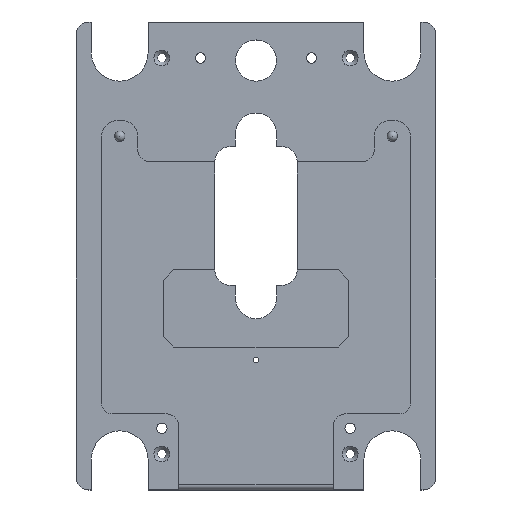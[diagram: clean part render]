
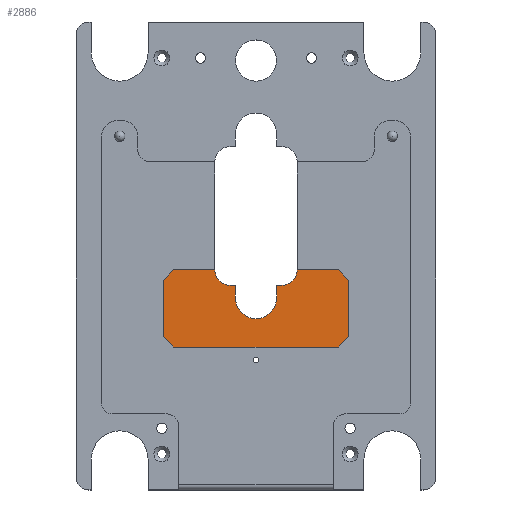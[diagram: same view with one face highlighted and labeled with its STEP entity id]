
A CAD part, top view. The second image highlights one B-rep face of the part: STEP entity #2886.
In plain terms, the highlighted planar face has unit normal (0, 0, 1).
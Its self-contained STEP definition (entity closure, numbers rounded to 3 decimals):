
#1407 = EDGE_CURVE('',#1408,#1410,#1412,.T.);
#1408 = VERTEX_POINT('',#1409);
#1409 = CARTESIAN_POINT('',(15.99,1.89,7.));
#1410 = VERTEX_POINT('',#1411);
#1411 = CARTESIAN_POINT('',(7.99,1.89,7.));
#1412 = LINE('',#1413,#1414);
#1413 = CARTESIAN_POINT('',(29.99,1.89,7.));
#1414 = VECTOR('',#1415,1.);
#1415 = DIRECTION('',(-1.,0.,0.));
#1471 = VERTEX_POINT('',#1472);
#1472 = CARTESIAN_POINT('',(17.99,-0.11,7.));
#1478 = EDGE_CURVE('',#1408,#1471,#1479,.T.);
#1479 = LINE('',#1480,#1481);
#1480 = CARTESIAN_POINT('',(31.94,-14.06,7.));
#1481 = VECTOR('',#1482,1.);
#1482 = DIRECTION('',(0.707,-0.707,0.));
#1495 = VERTEX_POINT('',#1496);
#1496 = CARTESIAN_POINT('',(-16.01,1.89,7.));
#1502 = EDGE_CURVE('',#1495,#1503,#1505,.T.);
#1503 = VERTEX_POINT('',#1504);
#1504 = CARTESIAN_POINT('',(-8.01,1.89,7.));
#1505 = LINE('',#1506,#1507);
#1506 = CARTESIAN_POINT('',(-30.01,1.89,7.));
#1507 = VECTOR('',#1508,1.);
#1508 = DIRECTION('',(1.,0.,0.));
#1526 = VERTEX_POINT('',#1527);
#1527 = CARTESIAN_POINT('',(17.99,-11.11,7.));
#1533 = EDGE_CURVE('',#1526,#1471,#1534,.T.);
#1534 = LINE('',#1535,#1536);
#1535 = CARTESIAN_POINT('',(17.99,-26.11,7.));
#1536 = VECTOR('',#1537,1.);
#1537 = DIRECTION('',(0.,1.,0.));
#1550 = VERTEX_POINT('',#1551);
#1551 = CARTESIAN_POINT('',(-18.01,-0.11,7.));
#1557 = EDGE_CURVE('',#1550,#1495,#1558,.T.);
#1558 = LINE('',#1559,#1560);
#1559 = CARTESIAN_POINT('',(-14.46,3.44,7.));
#1560 = VECTOR('',#1561,1.);
#1561 = DIRECTION('',(0.707,0.707,0.));
#1574 = EDGE_CURVE('',#1526,#1575,#1577,.T.);
#1575 = VERTEX_POINT('',#1576);
#1576 = CARTESIAN_POINT('',(15.99,-13.11,7.));
#1577 = LINE('',#1578,#1579);
#1578 = CARTESIAN_POINT('',(14.29,-14.81,7.));
#1579 = VECTOR('',#1580,1.);
#1580 = DIRECTION('',(-0.707,-0.707,0.));
#1596 = EDGE_CURVE('',#1597,#1550,#1599,.T.);
#1597 = VERTEX_POINT('',#1598);
#1598 = CARTESIAN_POINT('',(-18.01,-11.11,7.));
#1599 = LINE('',#1600,#1601);
#1600 = CARTESIAN_POINT('',(-18.01,-26.11,7.));
#1601 = VECTOR('',#1602,1.);
#1602 = DIRECTION('',(0.,1.,0.));
#1620 = EDGE_CURVE('',#1575,#1621,#1623,.T.);
#1621 = VERTEX_POINT('',#1622);
#1622 = CARTESIAN_POINT('',(-16.01,-13.11,7.));
#1623 = LINE('',#1624,#1625);
#1624 = CARTESIAN_POINT('',(17.99,-13.11,7.));
#1625 = VECTOR('',#1626,1.);
#1626 = DIRECTION('',(-1.,0.,0.));
#1646 = EDGE_CURVE('',#1621,#1597,#1647,.T.);
#1647 = LINE('',#1648,#1649);
#1648 = CARTESIAN_POINT('',(3.19,-32.31,7.));
#1649 = VECTOR('',#1650,1.);
#1650 = DIRECTION('',(-0.707,0.707,0.));
#2867 = EDGE_CURVE('',#2868,#1410,#2870,.T.);
#2868 = VERTEX_POINT('',#2869);
#2869 = CARTESIAN_POINT('',(4.99,-1.11,7.));
#2870 = CIRCLE('',#2871,3.);
#2871 = AXIS2_PLACEMENT_3D('',#2872,#2873,#2874);
#2872 = CARTESIAN_POINT('',(4.99,1.89,7.));
#2873 = DIRECTION('',(-0.,0.,1.));
#2874 = DIRECTION('',(0.,-1.,0.));
#2886 = ADVANCED_FACE('',(#2887),#2947,.T.);
#2887 = FACE_BOUND('',#2888,.T.);
#2888 = EDGE_LOOP('',(#2889,#2890,#2891,#2892,#2900,#2908,#2917,#2925,
    #2933,#2940,#2941,#2942,#2943,#2944,#2945,#2946));
#2889 = ORIENTED_EDGE('',*,*,#1478,.F.);
#2890 = ORIENTED_EDGE('',*,*,#1407,.T.);
#2891 = ORIENTED_EDGE('',*,*,#2867,.F.);
#2892 = ORIENTED_EDGE('',*,*,#2893,.T.);
#2893 = EDGE_CURVE('',#2868,#2894,#2896,.T.);
#2894 = VERTEX_POINT('',#2895);
#2895 = CARTESIAN_POINT('',(3.99,-1.11,7.));
#2896 = LINE('',#2897,#2898);
#2897 = CARTESIAN_POINT('',(7.99,-1.11,7.));
#2898 = VECTOR('',#2899,1.);
#2899 = DIRECTION('',(-1.,0.,0.));
#2900 = ORIENTED_EDGE('',*,*,#2901,.T.);
#2901 = EDGE_CURVE('',#2894,#2902,#2904,.T.);
#2902 = VERTEX_POINT('',#2903);
#2903 = CARTESIAN_POINT('',(3.99,-3.61,7.));
#2904 = LINE('',#2905,#2906);
#2905 = CARTESIAN_POINT('',(3.99,-1.11,7.));
#2906 = VECTOR('',#2907,1.);
#2907 = DIRECTION('',(0.,-1.,0.));
#2908 = ORIENTED_EDGE('',*,*,#2909,.F.);
#2909 = EDGE_CURVE('',#2910,#2902,#2912,.T.);
#2910 = VERTEX_POINT('',#2911);
#2911 = CARTESIAN_POINT('',(-4.01,-3.61,7.));
#2912 = CIRCLE('',#2913,4.);
#2913 = AXIS2_PLACEMENT_3D('',#2914,#2915,#2916);
#2914 = CARTESIAN_POINT('',(-0.01,-3.61,7.));
#2915 = DIRECTION('',(0.,0.,1.));
#2916 = DIRECTION('',(-1.,0.,0.));
#2917 = ORIENTED_EDGE('',*,*,#2918,.F.);
#2918 = EDGE_CURVE('',#2919,#2910,#2921,.T.);
#2919 = VERTEX_POINT('',#2920);
#2920 = CARTESIAN_POINT('',(-4.01,-1.11,7.));
#2921 = LINE('',#2922,#2923);
#2922 = CARTESIAN_POINT('',(-4.01,-1.11,7.));
#2923 = VECTOR('',#2924,1.);
#2924 = DIRECTION('',(0.,-1.,0.));
#2925 = ORIENTED_EDGE('',*,*,#2926,.T.);
#2926 = EDGE_CURVE('',#2919,#2927,#2929,.T.);
#2927 = VERTEX_POINT('',#2928);
#2928 = CARTESIAN_POINT('',(-5.01,-1.11,7.));
#2929 = LINE('',#2930,#2931);
#2930 = CARTESIAN_POINT('',(7.99,-1.11,7.));
#2931 = VECTOR('',#2932,1.);
#2932 = DIRECTION('',(-1.,0.,0.));
#2933 = ORIENTED_EDGE('',*,*,#2934,.T.);
#2934 = EDGE_CURVE('',#2927,#1503,#2935,.T.);
#2935 = CIRCLE('',#2936,3.);
#2936 = AXIS2_PLACEMENT_3D('',#2937,#2938,#2939);
#2937 = CARTESIAN_POINT('',(-5.01,1.89,7.));
#2938 = DIRECTION('',(-0.,-0.,-1.));
#2939 = DIRECTION('',(0.,-1.,0.));
#2940 = ORIENTED_EDGE('',*,*,#1502,.F.);
#2941 = ORIENTED_EDGE('',*,*,#1557,.F.);
#2942 = ORIENTED_EDGE('',*,*,#1596,.F.);
#2943 = ORIENTED_EDGE('',*,*,#1646,.F.);
#2944 = ORIENTED_EDGE('',*,*,#1620,.F.);
#2945 = ORIENTED_EDGE('',*,*,#1574,.F.);
#2946 = ORIENTED_EDGE('',*,*,#1533,.T.);
#2947 = PLANE('',#2948);
#2948 = AXIS2_PLACEMENT_3D('',#2949,#2950,#2951);
#2949 = CARTESIAN_POINT('',(34.99,-40.91,7.));
#2950 = DIRECTION('',(0.,0.,1.));
#2951 = DIRECTION('',(0.,1.,0.));
